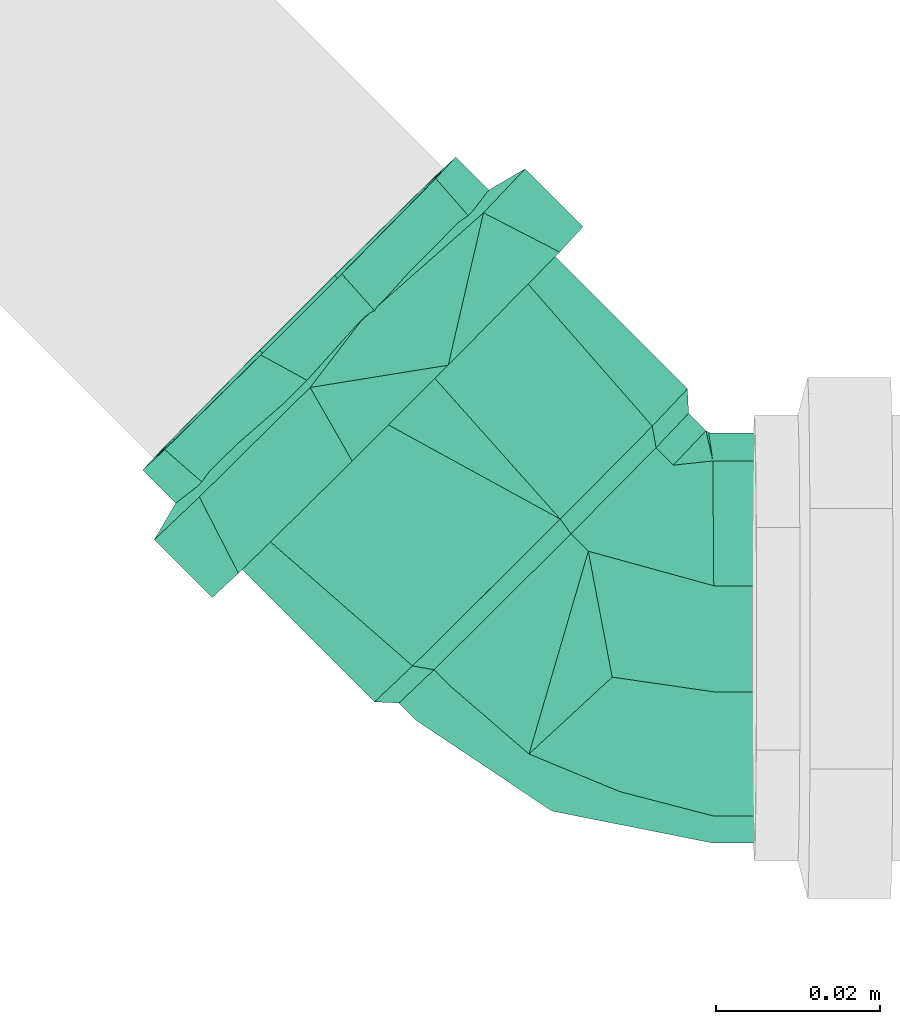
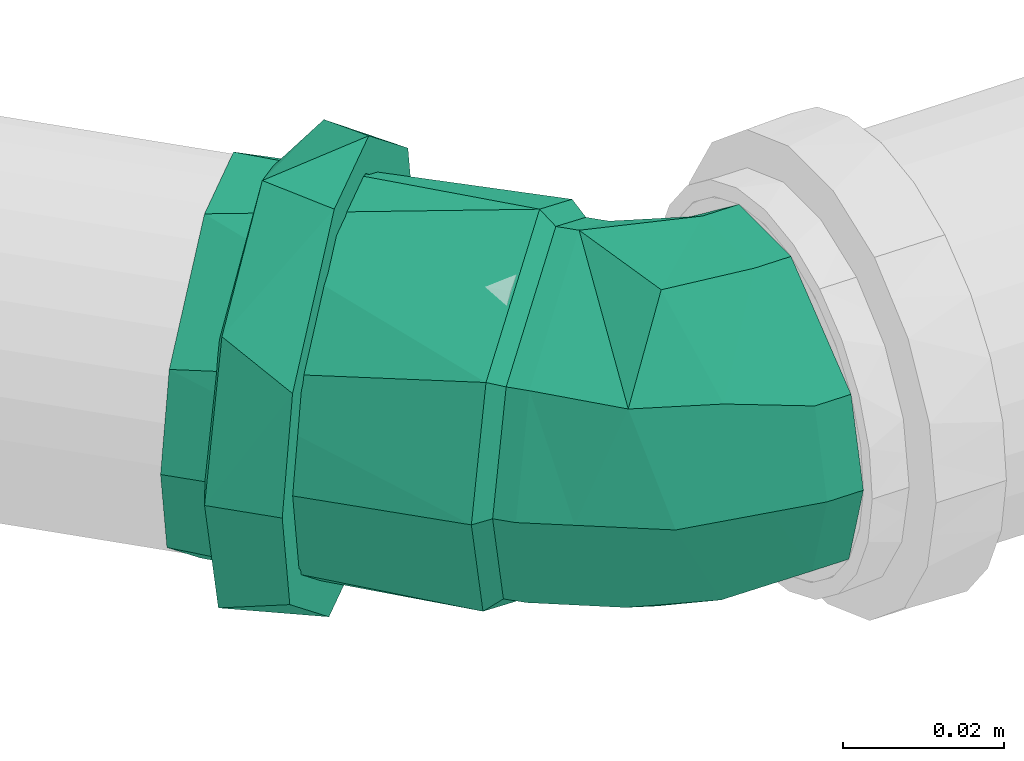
# One storey, part 37 of 589: 1 flow fitting.
"""IFC2X3 building model written with IfcOpenShell, lengths in millimetres."""

import ifcopenshell
import ifcopenshell.guid

model = None  # the IFC model being written
_history = None  # IfcOwnerHistory: only IFC2X3 demands one
_inside = {}  # id of a spatial element -> (the spatial element, [elements in it])
_under = {}  # id of a project, library or spatial element -> (it, [spatial elements below it])
_declared = {}  # id of a project -> (the project, [libraries it declares])
_typed = {}  # id of a type object -> (the type object, [elements of that type])
_made_of = {}  # id of a material, layer set ... -> (it, [elements and type objects made of it])


def new_model(schema):
    """Start an empty IFC model of exactly this schema.

    Asked for "IFC4X3", IfcOpenShell would pick the latest addendum, in which some entities
    have other attributes; the version numbers below select the first issue.
    IFC2X3 requires an IfcOwnerHistory on every rooted entity: one is made here for all.
    """
    global model, _history
    if schema == "IFC4X3":
        model = ifcopenshell.file(schema_version=(4, 3, 0, 0))
    else:
        model = ifcopenshell.file(schema=schema)
    _inside.clear()
    _under.clear()
    _declared.clear()
    _typed.clear()
    _made_of.clear()
    _history = None
    if model.schema == "IFC2X3":
        org = make("IfcOrganization", Name="unknown")
        user = make(
            "IfcPersonAndOrganization",
            ThePerson=make("IfcPerson", FamilyName="unknown"),
            TheOrganization=org,
        )
        app = make(
            "IfcApplication",
            ApplicationDeveloper=org,
            Version="unknown",
            ApplicationFullName="unknown",
            ApplicationIdentifier="unknown",
        )
        _history = make(
            "IfcOwnerHistory",
            OwningUser=user,
            OwningApplication=app,
            ChangeAction="ADDED",
            CreationDate=0,
        )
    return model


def make(cls, **values):
    """One entity of the class cls with the attributes given. An attribute that is None is left unset."""
    return model.create_entity(
        cls, **{name: value for name, value in values.items() if value is not None}
    )


def entity(cls, *values):
    """Any entity or typed value of the class cls, its attributes in the order of the schema. None: left unset."""
    e = model.create_entity(cls)
    for i, value in enumerate(values):
        if value is not None:
            e[i] = value
    return e


def rooted(cls, **values):
    """An entity with a GlobalId (a new one), such as an element, a storey or a relation."""
    return make(cls, GlobalId=ifcopenshell.guid.new(), OwnerHistory=_history, **values)


def si_unit(unit_type, name, prefix=None):
    """IfcSIUnit, for example si_unit("LENGTHUNIT", "METRE", prefix="MILLI")."""
    return make("IfcSIUnit", UnitType=unit_type, Prefix=prefix, Name=name)


def converted_unit(unit_type, name, factor, base, dimensions=None, offset=None):
    """IfcConversionBasedUnit, such as the inch: factor (a typed value) times the base unit."""
    return make(
        "IfcConversionBasedUnit"
        if offset is None
        else "IfcConversionBasedUnitWithOffset",
        ConversionOffset=offset,
        Dimensions=None
        if dimensions is None
        else entity("IfcDimensionalExponents", *dimensions),
        UnitType=unit_type,
        Name=name,
        ConversionFactor=make(
            "IfcMeasureWithUnit", ValueComponent=factor, UnitComponent=base
        ),
    )


def derived_unit(unit_type, elements):
    """IfcDerivedUnit: a product of units, each with its exponent."""
    return make(
        "IfcDerivedUnit",
        Elements=[
            make("IfcDerivedUnitElement", Unit=unit, Exponent=power)
            for unit, power in elements
        ],
        UnitType=unit_type,
    )


def assignment(units):
    """IfcUnitAssignment: the units of a project."""
    return None if units is None else make("IfcUnitAssignment", Units=units)


def point(xyz):
    """IfcCartesianPoint."""
    return None if xyz is None else make("IfcCartesianPoint", Coordinates=xyz)


def direction(xyz):
    """IfcDirection."""
    return None if xyz is None else make("IfcDirection", DirectionRatios=xyz)


def frame(location, z_axis=None, x_axis=None):
    """IfcAxis2Placement3D, a coordinate frame: its origin and axes. An axis left out is left unset."""
    return make(
        "IfcAxis2Placement3D",
        Location=point(location),
        Axis=direction(z_axis),
        RefDirection=direction(x_axis),
    )


def origin():
    """The frame at (0, 0, 0) with its axes left unset."""
    return frame((0.0, 0.0, 0.0))


def place(relative_to, where):
    """IfcLocalPlacement: puts the frame where relative to a parent placement (None: the world)."""
    return make(
        "IfcLocalPlacement", PlacementRelTo=relative_to, RelativePlacement=where
    )


def context(
    kind, dimensions, precision=None, world=None, true_north=None, identifier=None
):
    """IfcGeometricRepresentationContext, for example the 3D "Model" context."""
    return make(
        "IfcGeometricRepresentationContext",
        ContextIdentifier=identifier,
        ContextType=kind,
        CoordinateSpaceDimension=dimensions,
        Precision=precision,
        WorldCoordinateSystem=world,
        TrueNorth=true_north,
    )


def subcontext(parent, identifier, kind, view, scale=None):
    """IfcGeometricRepresentationSubContext, for example "Body" below "Model"."""
    return make(
        "IfcGeometricRepresentationSubContext",
        ContextIdentifier=identifier,
        ContextType=kind,
        ParentContext=parent,
        TargetScale=scale,
        TargetView=view,
    )


def project(units=None, contexts=None):
    """IfcProject with its units and contexts."""
    return rooted(
        "IfcProject",
        Name="project",
        RepresentationContexts=contexts,
        UnitsInContext=assignment(units),
    )


def spatial(cls, under=None, at=None, **own):
    """A site, building, storey or space (cls), placed at a placement, below another one or the project."""
    s = rooted(cls, ObjectPlacement=at, **own)
    if under is not None:
        _under.setdefault(under.id(), (under, []))[1].append(s)
    return s


def faces_of(points, faces, orient=None, outer=None):
    """IfcFace entities. A face is a list of loops; a loop is a list of indices into points, from 0.

    orient and outer hold one flag for each loop. By default every Orientation is true, the
    first loop of a face is its IfcFaceOuterBound and the others are IfcFaceBound.
    """
    made = []
    for i, loops in enumerate(faces):
        bounds = []
        for j, loop in enumerate(loops):
            is_outer = j == 0 if outer is None else outer[i][j]
            bounds.append(
                make(
                    "IfcFaceOuterBound" if is_outer else "IfcFaceBound",
                    Bound=make("IfcPolyLoop", Polygon=[points[k] for k in loop]),
                    Orientation=True if orient is None else orient[i][j],
                )
            )
        made.append(make("IfcFace", Bounds=bounds))
    return made


def faceted_brep(points, faces, orient=None, outer=None, voids=None):
    """IfcFacetedBrep: a solid bounded by flat faces; with voids (closed shells), ...WithVoids."""
    shared = [point(p) for p in points]
    hull = make("IfcClosedShell", CfsFaces=faces_of(shared, faces, orient, outer))
    if voids is None:
        return make("IfcFacetedBrep", Outer=hull)
    return make(
        "IfcFacetedBrepWithVoids",
        Outer=hull,
        Voids=[
            make(cls, CfsFaces=faces_of(shared, fs, o, b)) for cls, fs, o, b in voids
        ],
    )


def shape(context_of_items, identifier, shape_type, items):
    """IfcShapeRepresentation: the items that make up one representation, for example the "Body"."""
    return make(
        "IfcShapeRepresentation",
        ContextOfItems=context_of_items,
        RepresentationIdentifier=identifier,
        RepresentationType=shape_type,
        Items=items,
    )


def source(mapping_origin, context_of_items, identifier, shape_type, items):
    """IfcRepresentationMap: a shape defined once, which mapped items show again and again."""
    return make(
        "IfcRepresentationMap",
        MappingOrigin=mapping_origin,
        MappedRepresentation=shape(context_of_items, identifier, shape_type, items),
    )


def transform(
    local_origin,
    x_axis=None,
    y_axis=None,
    z_axis=None,
    scale=None,
    scale2=None,
    scale3=None,
    uniform=True,
):
    """IfcCartesianTransformationOperator3D, or its non-uniform kind. x_axis, y_axis, z_axis: its Axis1, 2, 3."""
    if uniform:
        return make(
            "IfcCartesianTransformationOperator3D",
            Axis1=direction(x_axis),
            Axis2=direction(y_axis),
            LocalOrigin=point(local_origin),
            Scale=scale,
            Axis3=direction(z_axis),
        )
    return make(
        "IfcCartesianTransformationOperator3DnonUniform",
        Axis1=direction(x_axis),
        Axis2=direction(y_axis),
        LocalOrigin=point(local_origin),
        Scale=scale,
        Axis3=direction(z_axis),
        Scale2=scale2,
        Scale3=scale3,
    )


def mapped(mapping_source, mapping_target):
    """IfcMappedItem: shows the shape of a source again, moved by a transform."""
    return make(
        "IfcMappedItem", MappingSource=mapping_source, MappingTarget=mapping_target
    )


def material(Name=None, Category=None):
    """IfcMaterial."""
    return make("IfcMaterial", Name=Name, Category=Category)


def made_of(thing, what):
    """Note that an element or type object is made of a material, layer set ...; save() writes the relation."""
    if what is not None:
        _made_of.setdefault(what.id(), (what, []))[1].append(thing)
    return thing


def type_object(cls, material=None, **own):
    """A type object (cls), such as IfcWallType, which elements share."""
    return made_of(rooted(cls, **own), material)


def type_shapes(of_type, sources):
    """Give a type object the sources (RepresentationMaps) that its elements show as mapped items."""
    of_type.RepresentationMaps = sources


def element(
    cls,
    number,
    at=None,
    inside=None,
    cuts=None,
    type_object=None,
    material=None,
    context=None,
    identifier="Body",
    shape_type=None,
    held_by="IfcProductDefinitionShape",
    body=None,
    shapes=None,
    **own,
):
    """One element of the class cls, such as IfcWall. Its Tag is "e" and its number.

    at: its placement. inside: the storey or other place that contains it. cuts: it is an
    opening in that element (IfcRelVoidsElement). A single representation is given by context,
    identifier, shape_type and body (its items); several are given by shapes. held_by: the class
    of the entity that holds the representations. save() writes the other relations.
    """
    e = rooted(cls, Tag="e%d" % number, ObjectPlacement=at, **own)
    if body is not None:
        shapes = [shape(context, identifier, shape_type, body)]
    if shapes is not None:
        e.Representation = make(held_by, Representations=shapes)
    if inside is not None:
        _inside.setdefault(inside.id(), (inside, []))[1].append(e)
    if cuts is not None:
        rooted(
            "IfcRelVoidsElement", RelatingBuildingElement=cuts, RelatedOpeningElement=e
        )
    if type_object is not None:
        _typed.setdefault(type_object.id(), (type_object, []))[1].append(e)
    return made_of(e, material)


def aggregate(whole, parts):
    """IfcRelAggregates: a whole, such as a stair, and the parts it consists of."""
    return rooted("IfcRelAggregates", RelatingObject=whole, RelatedObjects=parts)


def save(model, path):
    """Write the relations noted so far, then the file.

    IfcRelAggregates (storeys below a building ...), IfcRelContainedInSpatialStructure (elements
    in a storey), IfcRelDefinesByType, IfcRelAssociatesMaterial and IfcRelDeclares: one each for
    every whole, place, type object, material and project.
    """
    for whole, parts in _under.values():
        aggregate(whole, parts)
    for where, things in _inside.values():
        rooted(
            "IfcRelContainedInSpatialStructure",
            RelatedElements=things,
            RelatingStructure=where,
        )
    for kind, things in _typed.values():
        rooted("IfcRelDefinesByType", RelatedObjects=things, RelatingType=kind)
    for what, things in _made_of.values():
        rooted("IfcRelAssociatesMaterial", RelatedObjects=things, RelatingMaterial=what)
    for by, libraries in _declared.values():
        rooted("IfcRelDeclares", RelatingContext=by, RelatedDefinitions=libraries)
    model.write(path)


model = new_model("IFC2X3")

# Units and contexts
model_context = context("Model", 3, precision=0.01, world=origin(), true_north=direction((6.123031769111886e-17, 1.0)))
body_context = subcontext(model_context, "Body", "Model", "MODEL_VIEW")
ifc_project = project(units=[si_unit("LENGTHUNIT", "METRE", prefix="MILLI"), si_unit("AREAUNIT", "SQUARE_METRE"), si_unit("VOLUMEUNIT", "CUBIC_METRE"), converted_unit("PLANEANGLEUNIT", "DEGREE", entity("IfcRatioMeasure", 0.017453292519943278), si_unit("PLANEANGLEUNIT", "RADIAN"), dimensions=[0, 0, 0, 0, 0, 0, 0]), si_unit("MASSUNIT", "GRAM", prefix="KILO"), derived_unit("MASSDENSITYUNIT", [(si_unit("MASSUNIT", "GRAM", prefix="KILO"), 1), (si_unit("LENGTHUNIT", "METRE"), -3)]), derived_unit("IONCONCENTRATIONUNIT", [(si_unit("MASSUNIT", "GRAM", prefix="KILO"), 1), (si_unit("LENGTHUNIT", "METRE"), -3)]), derived_unit("MOMENTOFINERTIAUNIT", [(si_unit("LENGTHUNIT", "METRE"), 4)]), si_unit("TIMEUNIT", "SECOND"), si_unit("FREQUENCYUNIT", "HERTZ"), si_unit("THERMODYNAMICTEMPERATUREUNIT", "DEGREE_CELSIUS"), derived_unit("THERMALTRANSMITTANCEUNIT", [(si_unit("MASSUNIT", "GRAM", prefix="KILO"), 1), (si_unit("THERMODYNAMICTEMPERATUREUNIT", "KELVIN"), -1), (si_unit("TIMEUNIT", "SECOND"), -3)]), derived_unit("THERMALCONDUCTANCEUNIT", [(si_unit("MASSUNIT", "GRAM", prefix="KILO"), 1), (si_unit("THERMODYNAMICTEMPERATUREUNIT", "KELVIN"), -1), (si_unit("TIMEUNIT", "SECOND"), -3), (si_unit("LENGTHUNIT", "METRE"), 1)]), derived_unit("VOLUMETRICFLOWRATEUNIT", [(si_unit("LENGTHUNIT", "METRE"), 3), (si_unit("TIMEUNIT", "SECOND"), -1)]), derived_unit("MASSFLOWRATEUNIT", [(si_unit("MASSUNIT", "GRAM", prefix="KILO"), 1), (si_unit("TIMEUNIT", "SECOND"), -1)]), derived_unit("ROTATIONALFREQUENCYUNIT", [(si_unit("TIMEUNIT", "SECOND"), -1)]), si_unit("ELECTRICCURRENTUNIT", "AMPERE"), si_unit("ELECTRICVOLTAGEUNIT", "VOLT"), si_unit("POWERUNIT", "WATT"), si_unit("FORCEUNIT", "NEWTON", prefix="KILO"), si_unit("ILLUMINANCEUNIT", "LUX"), si_unit("LUMINOUSFLUXUNIT", "LUMEN"), si_unit("LUMINOUSINTENSITYUNIT", "CANDELA"), derived_unit("USERDEFINED", [(si_unit("MASSUNIT", "GRAM", prefix="KILO"), -1), (si_unit("LENGTHUNIT", "METRE"), -2), (si_unit("TIMEUNIT", "SECOND"), 3), (si_unit("LUMINOUSFLUXUNIT", "LUMEN"), 1)]), derived_unit("USERDEFINED", [(si_unit("MASSUNIT", "GRAM", prefix="KILO"), 1), (si_unit("TIMEUNIT", "SECOND"), -3), (si_unit("LENGTHUNIT", "METRE"), 3), (si_unit("ELECTRICCURRENTUNIT", "AMPERE"), -2)]), derived_unit("SOUNDPOWERUNIT", [(si_unit("MASSUNIT", "GRAM", prefix="KILO"), 1), (si_unit("TIMEUNIT", "SECOND"), -3), (si_unit("LENGTHUNIT", "METRE"), 2)]), derived_unit("SOUNDPRESSUREUNIT", [(si_unit("MASSUNIT", "GRAM", prefix="KILO"), 1), (si_unit("LENGTHUNIT", "METRE"), -1), (si_unit("TIMEUNIT", "SECOND"), -2)]), derived_unit("LINEARVELOCITYUNIT", [(si_unit("LENGTHUNIT", "METRE"), 1), (si_unit("TIMEUNIT", "SECOND"), -1)]), si_unit("PRESSUREUNIT", "PASCAL"), derived_unit("USERDEFINED", [(si_unit("MASSUNIT", "GRAM", prefix="KILO"), 1), (si_unit("LENGTHUNIT", "METRE"), -2), (si_unit("TIMEUNIT", "SECOND"), -2)]), derived_unit("LINEARFORCEUNIT", [(si_unit("MASSUNIT", "GRAM", prefix="KILO"), 1), (si_unit("TIMEUNIT", "SECOND"), -2)]), derived_unit("PLANARFORCEUNIT", [(si_unit("MASSUNIT", "GRAM", prefix="KILO"), 1), (si_unit("LENGTHUNIT", "METRE"), -1), (si_unit("TIMEUNIT", "SECOND"), -2)]), derived_unit("SPECIFICHEATCAPACITYUNIT", [(si_unit("THERMODYNAMICTEMPERATUREUNIT", "KELVIN"), -1), (si_unit("LENGTHUNIT", "METRE"), 2), (si_unit("TIMEUNIT", "SECOND"), -2)]), derived_unit("HEATINGVALUEUNIT", [(si_unit("LENGTHUNIT", "METRE"), 2), (si_unit("TIMEUNIT", "SECOND"), -2)]), derived_unit("VAPORPERMEABILITYUNIT", [(si_unit("LENGTHUNIT", "METRE"), -1), (si_unit("TIMEUNIT", "SECOND"), 1)]), derived_unit("DYNAMICVISCOSITYUNIT", [(si_unit("MASSUNIT", "GRAM", prefix="KILO"), 1), (si_unit("TIMEUNIT", "SECOND"), -1), (si_unit("LENGTHUNIT", "METRE"), -1)]), derived_unit("THERMALEXPANSIONCOEFFICIENTUNIT", [(si_unit("THERMODYNAMICTEMPERATUREUNIT", "KELVIN"), -1)]), derived_unit("MODULUSOFELASTICITYUNIT", [(si_unit("MASSUNIT", "GRAM", prefix="KILO"), 1), (si_unit("LENGTHUNIT", "METRE"), -1), (si_unit("TIMEUNIT", "SECOND"), -2)]), derived_unit("ISOTHERMALMOISTURECAPACITYUNIT", [(si_unit("LENGTHUNIT", "METRE"), 3), (si_unit("MASSUNIT", "GRAM", prefix="KILO"), -1)]), derived_unit("MOISTUREDIFFUSIVITYUNIT", [(si_unit("TIMEUNIT", "SECOND"), -1), (si_unit("LENGTHUNIT", "METRE"), 2)])], contexts=[model_context])

# Site, building, storey
site_placement = place(None, origin())
site = spatial("IfcSite", under=ifc_project, at=site_placement, Name="Default", CompositionType="ELEMENT")
building_placement = place(site_placement, origin())
building = spatial("IfcBuilding", under=site, at=building_placement, CompositionType="ELEMENT")
storey_placement = place(building_placement, frame((0.0, 0.0, 100.0)))
storey = spatial("IfcBuildingStorey", under=building, at=storey_placement, Name="TÉRREO", CompositionType="ELEMENT", Elevation=100.0)

# Flow fitting
ifc_material = material(Name="PVC Série Normal")
pipe_fitting_type = type_object("IfcPipeFittingType", Name="PVC Esgoto_Joelho 45_90_Rodrigo MEP:a. Série Normal", PredefinedType="NOTDEFINED", material=ifc_material)
shared_shape = source(origin(), body_context, "Body", "Brep", [
    faceted_brep([(22.923769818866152, -7.695482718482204, -12.500000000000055), (25.29203036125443, -10.063939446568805, 0.0), (22.923769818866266, -7.69548271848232, 12.499999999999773), (12.190221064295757, 3.0389551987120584, 24.148145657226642), (3.039964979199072, 12.189969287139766, 24.14814565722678), (-7.693583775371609, 22.92440720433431, 12.500000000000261), (-10.061844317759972, 25.292863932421, 0.0), (-7.6935837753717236, 22.92440720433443, -12.499999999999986), (3.039964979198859, 12.18996928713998, -24.1481456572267), (12.19022106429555, 3.0389551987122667, -24.14814565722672), (26.600877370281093, -4.0186797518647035, -12.500000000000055), (15.86732861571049, 6.715758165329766, -24.14814565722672), (6.717072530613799, 15.86677225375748, -24.1481456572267), (-4.016476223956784, 26.60121017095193, -12.499999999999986), (-6.3847367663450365, 28.9696668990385, 0.0), (-4.016476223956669, 26.601210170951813, 12.500000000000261), (6.717072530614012, 15.866772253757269, 24.14814565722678), (15.867328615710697, 6.715758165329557, 24.148145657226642), (26.60087737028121, -4.018679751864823, 12.499999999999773), (28.969137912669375, -6.387136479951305, 0.0)], [[[0, 1, 2, 3, 4, 5, 6, 7, 8, 9]], [[10, 11, 12, 13, 14, 15, 16, 17, 18, 19]], [[1, 19, 18, 2]], [[2, 18, 17, 3]], [[17, 16, 4, 3]], [[4, 16, 15, 5]], [[5, 15, 14, 6]], [[6, 14, 13, 7]], [[7, 13, 12, 8]], [[12, 11, 9, 8]], [[9, 11, 10, 0]], [[0, 10, 19, 1]]]),
    faceted_brep([(-55.96892181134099, -6.988114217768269, -26.07999730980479), (-55.96892181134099, -6.47047612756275, -24.14814565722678), (-55.96892181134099, 6.4704761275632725, -24.148145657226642), (-55.96892181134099, -23.382685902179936, -13.499999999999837), (-55.96892181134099, 6.988114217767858, -26.0799973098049), (-55.96892181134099, -21.650635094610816, -12.500000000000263), (-55.96892181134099, -25.0, 0.0), (-55.96892181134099, -27.0, 0.0), (-55.96892181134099, -21.650635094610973, 12.499999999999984), (-55.96892181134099, -23.382685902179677, 13.500000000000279), (-55.96892181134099, -6.470476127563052, 24.1481456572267), (-55.96892181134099, -6.98811421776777, 26.079997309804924), (-55.96892181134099, 6.470476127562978, 24.14814565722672), (-55.96892181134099, 6.988114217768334, 26.07999730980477), (-55.96892181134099, 21.650635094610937, 12.500000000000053), (-55.96892181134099, 23.38268590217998, 13.499999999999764), (-55.96892181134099, 27.0, 0.0), (-55.96892181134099, 25.0, 0.0), (-55.96892181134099, 23.382685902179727, -13.500000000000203), (-55.96892181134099, 21.6506350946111, -12.499999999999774), (-15.968921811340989, 21.650635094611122, -12.499999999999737), (-15.968921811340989, 25.0, 0.0), (-15.968921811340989, 6.4704761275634, -24.148145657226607), (-15.968921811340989, -6.470476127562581, -24.148145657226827), (-15.968921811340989, -21.650635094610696, -12.500000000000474), (-15.968921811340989, -25.0, 0.0), (-15.968921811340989, -21.65063509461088, 12.500000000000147), (-15.968921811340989, -6.470476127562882, 24.14814565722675), (-15.968921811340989, 6.470476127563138, 24.148145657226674), (-15.968921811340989, 21.650635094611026, 12.499999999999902), (-15.968921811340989, 27.0, 0.0), (-15.968921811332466, 20.682232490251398, 17.35641838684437), (-15.96892181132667, 4.685536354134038, 26.59033187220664), (-15.96892181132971, -20.686585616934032, 17.35122979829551), (-15.968921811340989, -27.0, 0.0), (-15.968921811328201, -8.000524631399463, 21.970780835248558), (-15.968921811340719, -20.686585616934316, -17.35122979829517), (-15.968921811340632, -4.6922062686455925, -26.589155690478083), (-15.96892181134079, 20.682232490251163, -17.356418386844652), (-15.968921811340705, 7.995013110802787, -21.972787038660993), (-13.768921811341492, -4.338459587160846, -24.620677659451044), (-13.76892181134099, 25.0, 0.0), (-13.7689218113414, 19.15424594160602, -16.065953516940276), (-13.768921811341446, 7.407893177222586, -20.343315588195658), (-13.768921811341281, -19.15021526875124, -16.070757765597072), (-13.768921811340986, -25.0, 0.0), (-13.768921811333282, -19.150215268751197, 16.07075776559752), (-13.768921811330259, -7.402789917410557, 20.34517318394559), (-13.768921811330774, 19.15424594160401, 16.065953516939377), (-13.768921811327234, 4.344635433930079, 24.61958860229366), (-10.768921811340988, 25.0, 0.0), (-10.76892181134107, 19.151286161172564, 16.069481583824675), (-10.76892181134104, 4.341396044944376, 24.62016003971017), (-10.768921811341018, -7.404832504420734, 20.344954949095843), (-10.768921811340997, -19.15106105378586, 16.069749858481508), (-10.768921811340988, -25.0, 0.0), (-10.768921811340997, -19.15106105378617, -16.069749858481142), (-10.768921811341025, -4.341051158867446, -24.62022085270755), (-10.76892181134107, 19.15128616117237, -16.069481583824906), (-10.768921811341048, 7.405117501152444, -20.344851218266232), (22.923769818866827, -7.695482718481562, -12.500000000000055), (12.190221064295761, 3.0389551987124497, -24.14814565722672), (3.039964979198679, 12.189969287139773, -24.1481456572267), (-7.69358377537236, 22.92440720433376, -12.499999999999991), (-10.06184431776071, 25.292863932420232, 0.0), (-7.6935837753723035, 22.924407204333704, 12.500000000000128), (3.039964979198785, 12.189969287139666, 24.14814565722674), (12.190221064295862, 3.038955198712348, 24.148145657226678), (22.923769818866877, -7.695482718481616, 12.499999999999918), (25.292030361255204, -10.063939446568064, 0.0), (1.706595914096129, -18.231014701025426, 15.057518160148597), (8.746957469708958, -21.11826032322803, 0.0), (12.769673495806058, -13.64882588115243, 14.852748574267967), (-3.605445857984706, -23.575173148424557, 0.0), (2.158889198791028, -4.458964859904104, 23.973885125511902), (-10.386257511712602, 25.076112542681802, 0.0), (19.219015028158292, -14.121525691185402, 0.0), (12.766185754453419, -13.645844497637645, -14.858628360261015), (2.121363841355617, -4.513538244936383, -23.96332319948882), (1.7564188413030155, -18.24350473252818, -15.023571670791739)], [[[0, 1, 2]], [[1, 0, 3]], [[2, 4, 0]], [[3, 5, 1]], [[3, 6, 5]], [[6, 3, 7]], [[8, 6, 7]], [[8, 7, 9]], [[9, 10, 8]], [[9, 11, 10]], [[10, 11, 12]], [[13, 12, 11]], [[13, 14, 12]], [[14, 13, 15]], [[16, 14, 15]], [[17, 14, 16]], [[18, 17, 16]], [[18, 19, 17]], [[19, 18, 4]], [[4, 2, 19]], [[20, 21, 17, 19]], [[22, 20, 19, 2]], [[2, 1, 23, 22]], [[24, 23, 1, 5]], [[25, 24, 5, 6]], [[26, 25, 6, 8]], [[27, 26, 8, 10]], [[10, 12, 28, 27]], [[29, 28, 12, 14]], [[21, 29, 14, 17]], [[16, 15, 30]], [[15, 31, 30]], [[31, 15, 13]], [[31, 13, 32]], [[33, 11, 9]], [[34, 9, 7]], [[11, 33, 35, 32]], [[33, 9, 34]], [[11, 32, 13]], [[7, 3, 34]], [[3, 36, 34]], [[36, 3, 0]], [[36, 0, 37]], [[38, 4, 18]], [[30, 18, 16]], [[4, 38, 39, 37]], [[38, 18, 30]], [[4, 37, 0]], [[28, 29, 21, 20, 22, 23, 24, 25, 26, 27]], [[39, 40, 37]], [[41, 42, 30]], [[30, 42, 38]], [[38, 43, 39]], [[44, 45, 36]], [[38, 42, 43]], [[36, 37, 44]], [[34, 36, 45]], [[40, 39, 43]], [[44, 37, 40]], [[45, 46, 33]], [[33, 34, 45]], [[46, 35, 33]], [[46, 47, 35]], [[47, 32, 35]], [[48, 41, 30]], [[48, 31, 49]], [[31, 48, 30]], [[32, 47, 49]], [[49, 31, 32]], [[41, 48, 50]], [[48, 51, 50]], [[51, 48, 49]], [[51, 49, 52]], [[52, 47, 53]], [[46, 54, 53]], [[46, 45, 54]], [[49, 47, 52]], [[54, 45, 55]], [[47, 46, 53]], [[45, 44, 56]], [[45, 56, 55]], [[56, 44, 57]], [[58, 59, 43]], [[44, 40, 57]], [[40, 59, 57]], [[58, 43, 42]], [[42, 50, 58]], [[50, 42, 41]], [[59, 40, 43]], [[60, 61, 62, 63, 64, 65, 66, 67, 68, 69]], [[51, 52, 66]], [[70, 71, 72]], [[54, 55, 73]], [[70, 72, 74]], [[50, 65, 75]], [[51, 65, 50]], [[52, 70, 74]], [[76, 69, 68]], [[71, 70, 73]], [[72, 76, 68]], [[73, 70, 54]], [[76, 72, 71]], [[67, 72, 68]], [[75, 65, 64]], [[70, 52, 53, 54]], [[52, 74, 66]], [[66, 65, 51]], [[67, 74, 72]], [[67, 66, 74]], [[60, 76, 77]], [[73, 55, 56]], [[78, 58, 62]], [[78, 57, 59, 58]], [[79, 73, 56]], [[57, 78, 79]], [[61, 77, 78]], [[58, 50, 63]], [[75, 64, 63]], [[57, 79, 56]], [[60, 69, 76]], [[63, 62, 58]], [[79, 78, 77]], [[61, 60, 77]], [[76, 71, 77]], [[73, 79, 71]], [[79, 77, 71]], [[62, 61, 78]], [[63, 50, 75]]]),
    faceted_brep([(-38.96892181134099, 6.9881142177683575, -26.07999730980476), (-38.96892181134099, -6.988114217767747, -26.079997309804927), (-38.96892181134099, -8.282209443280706, -30.909626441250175), (-38.96892181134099, 8.28220944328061, -30.9096264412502), (-38.96892181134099, 23.38268590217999, -13.499999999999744), (-38.96892181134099, -27.712812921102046, -16.0), (-38.96892181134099, -23.38268590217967, -13.500000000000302), (-38.96892181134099, -27.0, 0.0), (-38.96892181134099, -32.0, 0.0), (-38.96892181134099, -23.382685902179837, 13.500000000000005), (-38.96892181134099, -27.712812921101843, 16.0), (-38.96892181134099, -6.988114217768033, 26.07999730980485), (-38.96892181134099, -8.28220944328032, 30.909626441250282), (-38.96892181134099, 6.988114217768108, 26.07999730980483), (-38.96892181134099, 8.282209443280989, 30.909626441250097), (-38.96892181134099, 23.382685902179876, 13.499999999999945), (-38.96892181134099, 27.712812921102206, 16.0), (-38.96892181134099, 32.0, 0.0), (-38.96892181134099, 27.0, 0.0), (-38.96892181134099, 27.712812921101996, -16.0), (-48.96892181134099, 27.0, 0.0), (-50.26892181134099, 27.0, 0.0), (-48.96892181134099, 25.191342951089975, -6.750000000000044), (-48.96892181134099, 23.38268590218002, -13.499999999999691), (-48.96892181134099, 19.284042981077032, -16.644999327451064), (-48.96892181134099, 15.185400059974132, -19.789998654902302), (-48.96892181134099, 11.086757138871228, -22.934997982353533), (-48.96892181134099, 6.988114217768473, -26.07999730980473), (-48.96892181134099, 0.0, -26.079997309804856), (-48.96892181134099, -6.988114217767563, -26.079997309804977), (-48.96892181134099, -11.086757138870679, -22.934997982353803), (-48.96892181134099, -15.185400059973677, -19.789998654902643), (-48.96892181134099, -19.284042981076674, -16.644999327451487), (-48.96892181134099, -23.382685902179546, -13.50000000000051), (-48.96892181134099, -25.191342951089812, -6.750000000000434), (-50.26892181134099, -27.0, 0.0), (-48.96892181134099, -27.0, 0.0), (-48.96892181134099, -25.19134295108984, 6.750000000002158), (-48.96892181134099, -23.382685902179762, 13.500000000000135), (-48.96892181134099, -19.284042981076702, 16.64499932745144), (-48.96892181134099, -15.185400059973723, 19.7899986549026), (-48.96892181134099, -11.086757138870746, 22.934997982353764), (-48.96892181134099, -6.988114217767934, 26.079997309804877), (-48.96892181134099, 0.0, 26.079997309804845), (-48.96892181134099, 6.988114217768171, 26.079997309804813), (-48.96892181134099, 11.086757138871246, 22.93499798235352), (-48.96892181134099, 15.185400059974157, 19.789998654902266), (-48.96892181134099, 19.284042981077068, 16.644999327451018), (-48.96892181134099, 23.382685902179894, 13.499999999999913), (-48.96892181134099, 25.19134295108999, 6.74999999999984), (-48.96892181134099, 32.0, 0.0), (-48.96892181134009, 24.512275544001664, 20.570569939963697), (-48.96892181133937, -5.561133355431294, 31.51307341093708), (-48.96892181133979, -24.51743480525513, 20.56442050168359), (-48.96892181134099, -32.0, 0.0), (-48.96892181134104, -24.51743480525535, -20.564420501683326), (-48.968921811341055, 5.553228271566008, -31.514467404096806), (-48.968921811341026, 24.512275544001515, -20.570569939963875), (-50.26892181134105, -23.84329280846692, -8.675614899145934), (-50.26892181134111, -20.686585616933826, -17.351229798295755), (-50.26892181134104, 23.841116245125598, -8.678209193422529), (-50.26892181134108, 20.6822324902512, -17.356418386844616), (-50.26892181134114, -12.689395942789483, -21.970192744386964), (-50.26892181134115, -4.692206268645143, -26.589155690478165), (-50.268921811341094, 14.338622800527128, -19.664602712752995), (-50.26892181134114, 1.6514034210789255, -24.280971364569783), (-50.26892181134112, 7.995013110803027, -21.97278703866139), (-50.26892181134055, 23.84111624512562, 8.678209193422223), (-50.2689218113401, 20.68223249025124, 17.35641838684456), (-50.26892181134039, -23.843292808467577, 8.675614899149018), (-50.26892181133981, -20.686585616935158, 17.351229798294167), (-50.2689218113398, 12.683884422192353, 21.973375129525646), (-50.268921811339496, 4.685536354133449, 26.590331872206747), (-50.26892181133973, -14.343555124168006, 19.66100531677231), (-50.268921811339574, -1.6574941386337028, 24.2805563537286), (-50.268921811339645, -8.000524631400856, 21.97078083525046)], [[[0, 1, 2]], [[2, 3, 0]], [[4, 0, 3]], [[5, 2, 1]], [[1, 6, 5]], [[6, 7, 5]], [[8, 5, 7]], [[8, 7, 9]], [[10, 8, 9]], [[9, 11, 10]], [[11, 12, 10]], [[13, 12, 11]], [[12, 13, 14]], [[13, 15, 14]], [[16, 14, 15]], [[16, 15, 17]], [[17, 15, 18]], [[18, 4, 19]], [[17, 18, 19]], [[3, 19, 4]], [[4, 18, 20, 21, 22, 23]], [[0, 4, 23, 24, 25, 26, 27]], [[0, 27, 28, 29, 1]], [[6, 1, 29, 30, 31, 32, 33]], [[7, 6, 33, 34, 35, 36]], [[9, 7, 36, 35, 37, 38]], [[11, 9, 38, 39, 40, 41, 42]], [[11, 42, 43, 44, 13]], [[15, 13, 44, 45, 46, 47, 48]], [[18, 15, 48, 49, 21, 20]], [[50, 51, 16]], [[50, 16, 17]], [[16, 51, 14]], [[51, 52, 14]], [[12, 52, 53]], [[10, 53, 54]], [[53, 10, 12]], [[10, 54, 8]], [[52, 12, 14]], [[54, 55, 5]], [[54, 5, 8]], [[5, 55, 2]], [[55, 56, 2]], [[3, 56, 57]], [[19, 57, 50]], [[57, 19, 3]], [[19, 50, 17]], [[56, 3, 2]], [[58, 33, 59]], [[23, 60, 61]], [[32, 31, 59, 33]], [[30, 29, 62, 31]], [[24, 23, 61, 25]], [[29, 28, 63]], [[26, 25, 64]], [[65, 63, 28]], [[31, 62, 59]], [[63, 62, 29]], [[60, 22, 21]], [[34, 58, 35]], [[66, 26, 64]], [[28, 27, 65]], [[27, 66, 65]], [[27, 26, 66]], [[64, 25, 61]], [[34, 33, 58]], [[60, 23, 22]], [[67, 48, 68]], [[38, 69, 70]], [[47, 46, 68, 48]], [[45, 44, 71, 46]], [[39, 38, 70, 40]], [[44, 43, 72]], [[41, 40, 73]], [[74, 72, 43]], [[46, 71, 68]], [[72, 71, 44]], [[69, 37, 35]], [[49, 67, 21]], [[75, 41, 73]], [[43, 42, 74]], [[42, 75, 74]], [[42, 41, 75]], [[73, 40, 70]], [[49, 48, 67]], [[69, 38, 37]], [[54, 35, 58, 59, 55]], [[55, 59, 62, 63]], [[55, 63, 56]], [[57, 61, 60, 21, 50]], [[57, 56, 61]], [[56, 63, 65, 66, 64, 61]], [[50, 21, 67, 68, 51]], [[51, 68, 71, 72]], [[51, 72, 52]], [[53, 70, 69, 35, 54]], [[53, 52, 70]], [[52, 72, 74, 75, 73, 70]]]),
])
type_shapes(pipe_fitting_type, [shared_shape])
flow_fitting_placement = place(storey_placement, frame((-110.99485962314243, -10937.991585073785, -277.7053394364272), z_axis=(0.009999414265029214, -0.004141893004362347, 0.9999414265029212), x_axis=(0.7070714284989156, -0.7070714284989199, -0.009999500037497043)))
element("IfcFlowFitting", 1, at=flow_fitting_placement, inside=storey, type_object=pipe_fitting_type, material=ifc_material, Name="PVC Esgoto_Joelho 45_90_Rodrigo MEP:a. Série Normal", ObjectType="PVC Esgoto_Joelho 45_90_Rodrigo MEP:a. Série Normal", context=body_context, shape_type="MappedRepresentation", body=[
    mapped(shared_shape, transform((0.0, 0.0, 0.0), scale=1.0)),
])

save(model, "model.ifc")
